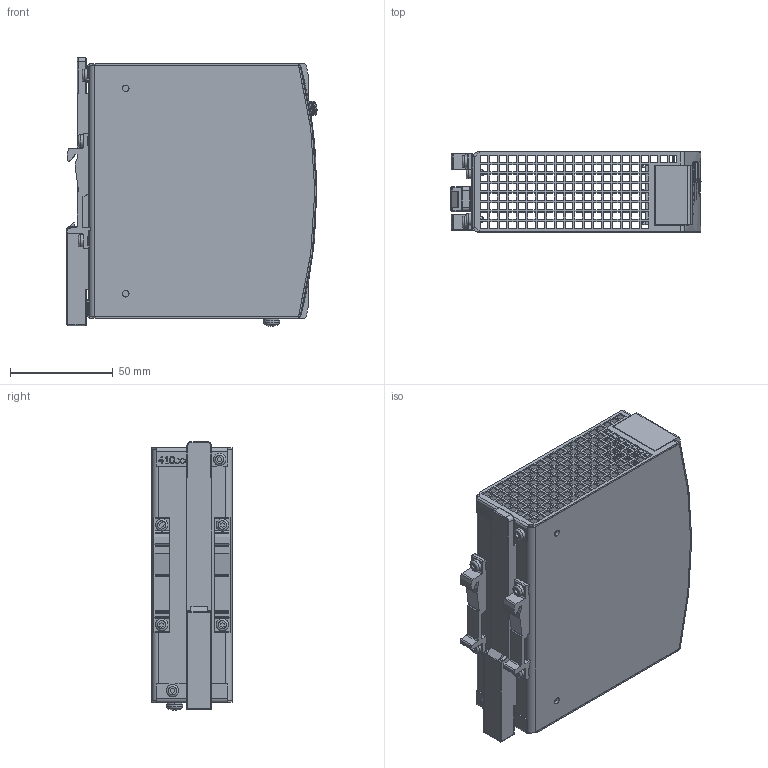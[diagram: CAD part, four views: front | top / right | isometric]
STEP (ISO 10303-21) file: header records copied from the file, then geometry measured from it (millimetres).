
FILE_DESCRIPTION(/* description */ (''),/* implementation_level */ '2;1');
FILE_NAME(/* name */ 'L:\MKT-GER\Neue Webdokumente\Daten von KO\CP10.241-S2 (410.07)\md-cp10_241-s2.stp',/* time_stamp */ '2018-01-08T14:15:21+01:00',/* author */ ('rahns'),/* organization */ (''),/* preprocessor_version */ 'ST-DEVELOPER v17',/* originating_system */ 'Autodesk Inventor 2018',/* authorisation */ '');
FILE_SCHEMA (('CONFIG_CONTROL_DESIGN'));
Products named in the file (14): 410.07; HOUSING BODY 410.01; HOUSING COVER 410.07; FRONTFOIL 410.07; MKT_SLIDER; MKT_T HOLDER; MKT_SCREW 3x6; MKT_SCREW 4x8; MKT_WASHER 4; MKT_LP2SW-R6; MKT_LED GN; MKT_POTI COVER; MKT_LP3BK-P4; MKT_LP5BK-P3
Assembly tree (19 placements, depth 2):
  410.07
    HOUSING BODY 410.01
    HOUSING COVER 410.07
    FRONTFOIL 410.07
    MKT_SLIDER
    MKT_SCREW 3x6  x6
    MKT_T HOLDER  x2
    MKT_SCREW 4x8
    MKT_WASHER 4
    MKT_LP2SW-R6
    MKT_LED GN
    MKT_POTI COVER
    MKT_LP3BK-P4
    MKT_LP5BK-P3
Bounding box: 121.72 x 39 x 130.77 mm (x, y, z)
Volume: 80951.7 mm3; surface area: 111018.2 mm2
Topology: 23 solids, 23 shells, 3127 faces, 8743 edges, 5855 vertices
Faces by surface type: plane 2405, cylinder 366, bspline 238, cone 80, torus 25, sphere 13
Full cylindrical faces by diameter (mm): 0.3 x4, 0.457 x2, 1 x28, 1.1 x16, 1.5 x12, 2.45 x2, 2.7 x1, 3 x6, 3.1 x4, 3.2 x3, 3.621 x1, 4 x9, 4.355 x1, 4.5 x2, 4.6 x1, 6 x8
Entity records: 108700 total; most frequent: CARTESIAN_POINT 29182, ORIENTED_EDGE 16726, DIRECTION 14654, EDGE_CURVE 8363, LINE 6598, VECTOR 6598, VERTEX_POINT 5591, AXIS2_PLACEMENT_3D 4028
